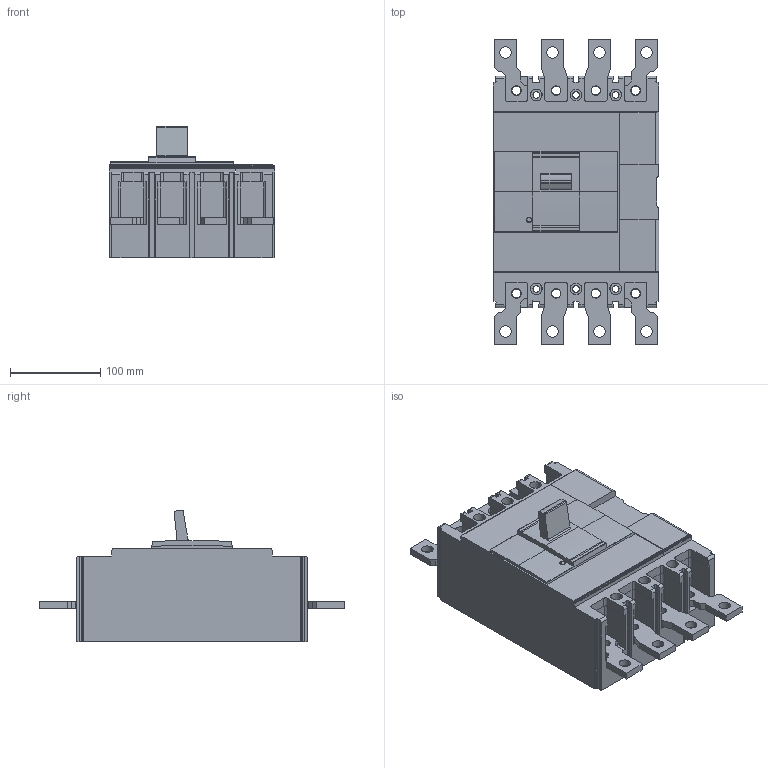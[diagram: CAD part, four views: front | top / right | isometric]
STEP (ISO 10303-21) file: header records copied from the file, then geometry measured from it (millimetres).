
FILE_DESCRIPTION (( 'STEP AP203' ), '1' );
FILE_NAME ('SMART 630AF 4P.STEP', '2018-01-04T01:11:38', ( '' ), ( '' ), 'SwSTEP 2.0', 'SolidWorks 2015', '' );
FILE_SCHEMA (( 'CONFIG_CONTROL_DESIGN' ));
Length unit declared in the file: millimetre
Products named in the file (1): SMART 630AF 4P
Bounding box: 184 x 339 x 145.46 mm (x, y, z)
Volume: 4372916.7 mm3; surface area: 293567.7 mm2
Topology: 9 solids, 9 shells, 476 faces, 1359 edges, 911 vertices
Faces by surface type: plane 266, cylinder 182, bspline 28
Entity records: 16648 total; most frequent: CARTESIAN_POINT 4006, ORIENTED_EDGE 2718, DIRECTION 2468, EDGE_CURVE 1359, LINE 930, VECTOR 930, VERTEX_POINT 911, AXIS2_PLACEMENT_3D 769
